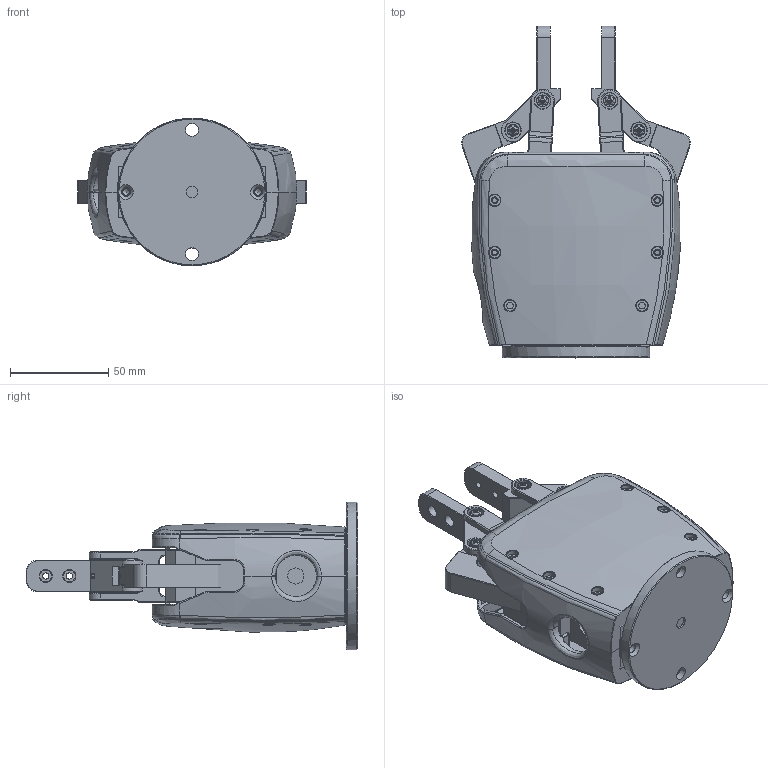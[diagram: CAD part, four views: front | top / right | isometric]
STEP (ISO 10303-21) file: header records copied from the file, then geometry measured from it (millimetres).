
FILE_DESCRIPTION (( 'STEP AP203' ), '1' );
FILE_NAME ('xArm Gripper(AG1002).STEP', '2021-06-30T03:55:59', ( '' ), ( '' ), 'SwSTEP 2.0', 'SolidWorks 2016', '' );
FILE_SCHEMA (( 'CONFIG_CONTROL_DESIGN' ));
Products named in the file (1): xArm Gripper(AG1002)
Bounding box: 116.27 x 168.52 x 75 mm (x, y, z)
Volume: 326353.8 mm3; surface area: 128097.7 mm2
Topology: 25 solids, 26 shells, 1789 faces, 4377 edges, 2672 vertices
Faces by surface type: plane 538, bspline 523, cylinder 468, cone 164, torus 65, sphere 31
Full cylindrical faces by diameter (mm): 2 x8, 2.5 x31, 3 x6, 3.2 x4, 3.3 x2, 3.4 x14, 4 x18, 4.3 x6, 4.5 x2, 5.4 x1, 5.7 x12, 5.8 x10, 6 x21, 6.5 x2, 8 x12, 8.2 x1, 9 x8, 10 x14, 11 x4, 46 x1, 75 x1
Entity records: 88080 total; most frequent: CARTESIAN_POINT 52126, ORIENTED_EDGE 7906, DIRECTION 6135, EDGE_CURVE 3953, VERTEX_POINT 2581, AXIS2_PLACEMENT_3D 2436, EDGE_LOOP 2276, FACE_OUTER_BOUND 2001
